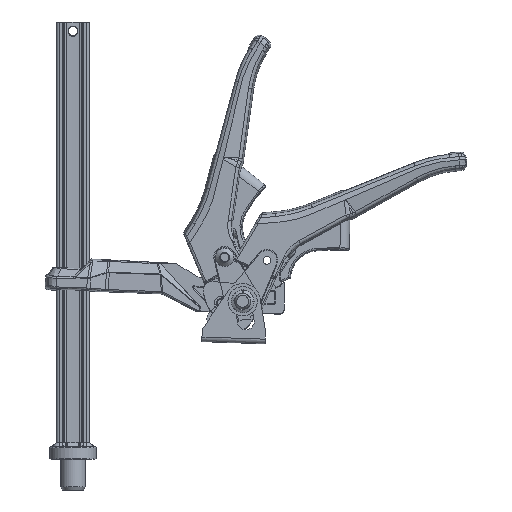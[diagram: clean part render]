
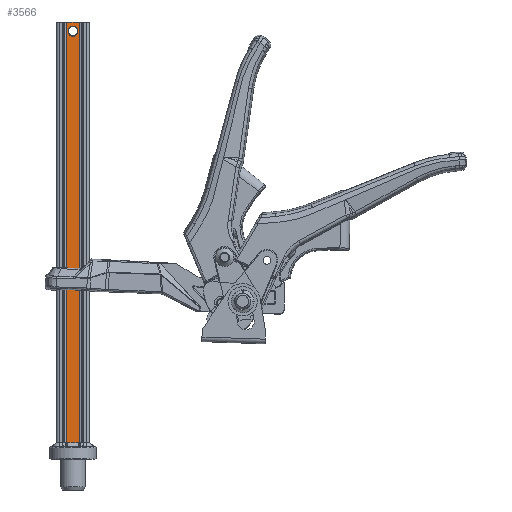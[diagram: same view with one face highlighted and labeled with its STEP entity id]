
A CAD part, front view. The second image highlights one B-rep face of the part: STEP entity #3566.
In plain terms, the highlighted cylindrical face has radius 117.857 mm (diameter 235.714 mm), a partial arc.
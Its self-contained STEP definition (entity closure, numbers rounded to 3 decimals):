
#2606=CARTESIAN_POINT('',(-3.661,-3.607,10.712));
#2607=VERTEX_POINT('',#2606);
#2614=CARTESIAN_POINT('',(-4.026,-3.619,10.734));
#2615=VERTEX_POINT('',#2614);
#2616=CARTESIAN_POINT('',(-3.661,-3.607,10.712));
#2617=CARTESIAN_POINT('',(-3.844,-3.613,10.712));
#2618=CARTESIAN_POINT('',(-4.026,-3.619,10.734));
#2619=B_SPLINE_CURVE_WITH_KNOTS('',2,(#2616,#2617,#2618),.UNSPECIFIED.,.F.,.U.,(3,3),(0.,1.),.UNSPECIFIED.);
#2620=EDGE_CURVE('',#2607,#2615,#2619,.T.);
#2641=CARTESIAN_POINT('',(3.661,-3.607,10.712));
#2642=VERTEX_POINT('',#2641);
#2649=CARTESIAN_POINT('',(0.,-121.407,10.712));
#2650=DIRECTION('',(0.031,1.,0.));
#2651=DIRECTION('',(0.,0.,1.));
#2652=AXIS2_PLACEMENT_3D('',#2649,#2651,#2650);
#2653=CIRCLE('',#2652,117.857);
#2654=EDGE_CURVE('',#2642,#2607,#2653,.T.);
#2675=CARTESIAN_POINT('',(4.026,-3.619,10.734));
#2676=VERTEX_POINT('',#2675);
#2686=CARTESIAN_POINT('',(4.026,-3.619,10.734));
#2687=CARTESIAN_POINT('',(3.844,-3.613,10.712));
#2688=CARTESIAN_POINT('',(3.661,-3.607,10.712));
#2689=B_SPLINE_CURVE_WITH_KNOTS('',2,(#2686,#2687,#2688),.UNSPECIFIED.,.F.,.U.,(3,3),(0.,1.),.UNSPECIFIED.);
#2690=EDGE_CURVE('',#2676,#2642,#2689,.T.);
#3445=CARTESIAN_POINT('',(4.026,-3.619,283.));
#3446=VERTEX_POINT('',#3445);
#3454=CARTESIAN_POINT('',(4.026,-3.619,283.));
#3455=DIRECTION('',(0.,0.,-1.));
#3456=VECTOR('',#3455,272.266);
#3457=LINE('',#3454,#3456);
#3458=EDGE_CURVE('',#3446,#2676,#3457,.T.);
#3466=CARTESIAN_POINT('',(0.,-121.407,10.712));
#3467=DIRECTION('',(0.034,0.999,0.));
#3468=DIRECTION('',(0.,0.,1.));
#3469=AXIS2_PLACEMENT_3D('',#3466,#3468,#3467);
#3470=CYLINDRICAL_SURFACE('',#3469,117.857);
#3471=CARTESIAN_POINT('',(-4.026,-3.619,283.));
#3472=VERTEX_POINT('',#3471);
#3473=CARTESIAN_POINT('',(-4.026,-3.619,283.));
#3474=DIRECTION('',(0.,0.,-1.));
#3475=VECTOR('',#3474,272.266);
#3476=LINE('',#3473,#3475);
#3477=EDGE_CURVE('',#3472,#2615,#3476,.T.);
#3478=ORIENTED_EDGE('',*,*,#3477,.T.);
#3479=ORIENTED_EDGE('',*,*,#2620,.F.);
#3480=ORIENTED_EDGE('',*,*,#2654,.F.);
#3481=ORIENTED_EDGE('',*,*,#2690,.F.);
#3482=ORIENTED_EDGE('',*,*,#3458,.F.);
#3483=CARTESIAN_POINT('',(0.,-121.407,283.));
#3484=DIRECTION('',(0.034,0.999,0.));
#3485=DIRECTION('',(0.,0.,1.));
#3486=AXIS2_PLACEMENT_3D('',#3483,#3485,#3484);
#3487=CIRCLE('',#3486,117.857);
#3488=EDGE_CURVE('',#3446,#3472,#3487,.T.);
#3489=ORIENTED_EDGE('',*,*,#3488,.T.);
#3490=EDGE_LOOP('',(#3478,#3479,#3480,#3481,#3482,#3489));
#3491=FACE_OUTER_BOUND('',#3490,.T.);
#3492=CARTESIAN_POINT('',(3.2,-3.593,277.));
#3493=VERTEX_POINT('',#3492);
#3494=CARTESIAN_POINT('',(3.2,-3.593,277.));
#3495=CARTESIAN_POINT('',(3.2,-3.593,276.965));
#3496=CARTESIAN_POINT('',(3.199,-3.593,276.905));
#3497=CARTESIAN_POINT('',(3.196,-3.593,276.844));
#3498=CARTESIAN_POINT('',(3.19,-3.593,276.734));
#3499=CARTESIAN_POINT('',(3.17,-3.593,276.547));
#3500=CARTESIAN_POINT('',(3.121,-3.591,276.275));
#3501=CARTESIAN_POINT('',(3.033,-3.589,275.964));
#3502=CARTESIAN_POINT('',(2.914,-3.586,275.664));
#3503=CARTESIAN_POINT('',(2.764,-3.582,275.375));
#3504=CARTESIAN_POINT('',(2.584,-3.578,275.103));
#3505=CARTESIAN_POINT('',(2.378,-3.574,274.85));
#3506=CARTESIAN_POINT('',(2.147,-3.57,274.619));
#3507=CARTESIAN_POINT('',(1.894,-3.565,274.413));
#3508=CARTESIAN_POINT('',(1.623,-3.561,274.234));
#3509=CARTESIAN_POINT('',(1.337,-3.557,274.085));
#3510=CARTESIAN_POINT('',(1.037,-3.554,273.965));
#3511=CARTESIAN_POINT('',(0.724,-3.552,273.876));
#3512=CARTESIAN_POINT('',(0.403,-3.551,273.819));
#3513=CARTESIAN_POINT('',(0.077,-3.55,273.795));
#3514=CARTESIAN_POINT('',(-0.249,-3.55,273.805));
#3515=CARTESIAN_POINT('',(-0.574,-3.551,273.847));
#3516=CARTESIAN_POINT('',(-0.891,-3.553,273.922));
#3517=CARTESIAN_POINT('',(-1.198,-3.556,274.027));
#3518=CARTESIAN_POINT('',(-1.493,-3.559,274.163));
#3519=CARTESIAN_POINT('',(-1.774,-3.563,274.33));
#3520=CARTESIAN_POINT('',(-2.035,-3.568,274.523));
#3521=CARTESIAN_POINT('',(-2.276,-3.572,274.742));
#3522=CARTESIAN_POINT('',(-2.493,-3.576,274.984));
#3523=CARTESIAN_POINT('',(-2.685,-3.581,275.248));
#3524=CARTESIAN_POINT('',(-2.849,-3.584,275.53));
#3525=CARTESIAN_POINT('',(-2.984,-3.588,275.825));
#3526=CARTESIAN_POINT('',(-3.087,-3.59,276.133));
#3527=CARTESIAN_POINT('',(-3.16,-3.592,276.45));
#3528=CARTESIAN_POINT('',(-3.195,-3.593,276.741));
#3529=CARTESIAN_POINT('',(-3.207,-3.594,277.033));
#3530=CARTESIAN_POINT('',(-3.187,-3.593,277.358));
#3531=CARTESIAN_POINT('',(-3.134,-3.592,277.677));
#3532=CARTESIAN_POINT('',(-3.049,-3.589,277.989));
#3533=CARTESIAN_POINT('',(-2.932,-3.586,278.293));
#3534=CARTESIAN_POINT('',(-2.785,-3.583,278.585));
#3535=CARTESIAN_POINT('',(-2.61,-3.579,278.859));
#3536=CARTESIAN_POINT('',(-2.407,-3.575,279.115));
#3537=CARTESIAN_POINT('',(-2.18,-3.57,279.35));
#3538=CARTESIAN_POINT('',(-1.93,-3.566,279.56));
#3539=CARTESIAN_POINT('',(-1.662,-3.562,279.741));
#3540=CARTESIAN_POINT('',(-1.377,-3.558,279.895));
#3541=CARTESIAN_POINT('',(-1.077,-3.555,280.02));
#3542=CARTESIAN_POINT('',(-0.764,-3.552,280.114));
#3543=CARTESIAN_POINT('',(-0.445,-3.551,280.175));
#3544=CARTESIAN_POINT('',(-0.122,-3.55,280.204));
#3545=CARTESIAN_POINT('',(0.203,-3.55,280.199));
#3546=CARTESIAN_POINT('',(0.527,-3.551,280.162));
#3547=CARTESIAN_POINT('',(0.844,-3.553,280.092));
#3548=CARTESIAN_POINT('',(1.153,-3.556,279.99));
#3549=CARTESIAN_POINT('',(1.45,-3.559,279.857));
#3550=CARTESIAN_POINT('',(1.733,-3.563,279.695));
#3551=CARTESIAN_POINT('',(1.999,-3.567,279.505));
#3552=CARTESIAN_POINT('',(2.244,-3.571,279.288));
#3553=CARTESIAN_POINT('',(2.464,-3.576,279.048));
#3554=CARTESIAN_POINT('',(2.659,-3.58,278.787));
#3555=CARTESIAN_POINT('',(2.827,-3.584,278.509));
#3556=CARTESIAN_POINT('',(2.965,-3.587,278.214));
#3557=CARTESIAN_POINT('',(3.072,-3.59,277.907));
#3558=CARTESIAN_POINT('',(3.149,-3.592,277.59));
#3559=CARTESIAN_POINT('',(3.2,-3.593,277.216));
#3560=CARTESIAN_POINT('',(3.2,-3.593,277.));
#3561=B_SPLINE_CURVE_WITH_KNOTS('',2,(#3494,#3495,#3496,#3497,#3498,#3499,#3500,#3501,#3502,#3503,#3504,#3505,#3506,#3507,#3508,#3509,#3510,#3511,#3512,#3513,#3514,#3515,#3516,#3517,#3518,#3519,#3520,#3521,#3522,#3523,#3524,#3525,#3526,#3527,#3528,#3529,#3530,#3531,#3532,#3533,#3534,#3535,#3536,#3537,#3538,#3539,#3540,#3541,#3542,#3543,#3544,#3545,#3546,#3547,#3548,#3549,#3550,#3551,#3552,#3553,#3554,#3555,#3556,#3557,#3558,#3559,#3560),.UNSPECIFIED.,.T.,.U.,(3,1,1,1,1,1,1,1,1,1,1,1,1,1,1,1,1,1,1,1,1,1,1,1,1,1,1,1,1,1,1,1,1,1,1,1,1,1,1,1,1,1,1,1,1,1,1,1,1,1,1,1,1,1,1,1,1,1,1,1,1,1,1,1,1,3),(0.,0.003,0.006,0.01,0.017,0.028,0.044,0.06,0.076,0.093,0.109,0.125,0.141,0.158,0.174,0.19,0.206,0.222,0.238,0.254,0.271,0.287,0.303,0.319,0.335,0.351,0.368,0.384,0.4,0.416,0.432,0.448,0.465,0.481,0.494,0.51,0.526,0.542,0.558,0.574,0.591,0.607,0.623,0.639,0.655,0.671,0.687,0.704,0.72,0.736,0.752,0.768,0.784,0.801,0.817,0.833,0.849,0.865,0.882,0.898,0.914,0.93,0.946,0.962,0.979,1.),.UNSPECIFIED.);
#3562=EDGE_CURVE('',#3493,#3493,#3561,.T.);
#3563=ORIENTED_EDGE('',*,*,#3562,.T.);
#3564=EDGE_LOOP('',(#3563));
#3565=FACE_BOUND('',#3564,.T.);
#3566=ADVANCED_FACE('',(#3491,#3565),#3470,.F.);
